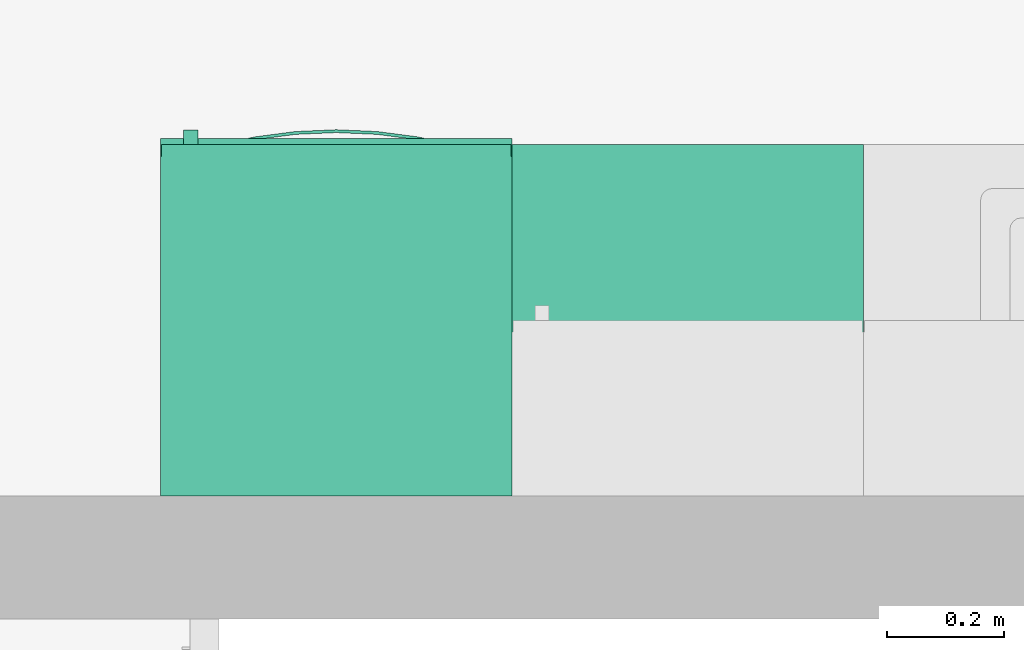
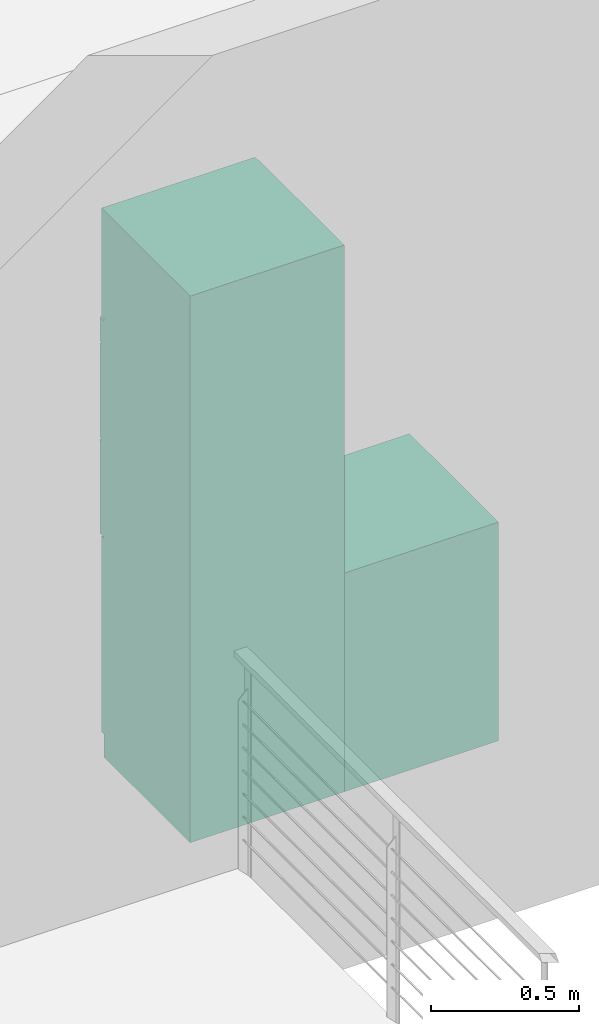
# One storey, part 20 of 26: 2 distribution elements.
"""IFC2X3 building model written with IfcOpenShell, lengths in millimetres."""

from ifc_helpers import new_model, entity, si_unit, converted_unit, money_unit, direction, frame, origin_with_axes, place, context, subcontext, project, spatial, faceted_brep, material, type_object, element, save


model = new_model("IFC2X3")

# Units and contexts
model_context = context("Model", 3, precision=1e-05, world=origin_with_axes(), true_north=direction((0.0, 1.0)))
body_context = subcontext(model_context, "Body", "Model", "MODEL_VIEW")
ifc_project = project(units=[si_unit("LENGTHUNIT", "METRE", prefix="MILLI"), si_unit("AREAUNIT", "SQUARE_METRE"), si_unit("VOLUMEUNIT", "CUBIC_METRE"), converted_unit("PLANEANGLEUNIT", "DEGREE", entity("IfcPlaneAngleMeasure", 0.0174532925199), si_unit("PLANEANGLEUNIT", "RADIAN"), dimensions=[0, 0, 0, 0, 0, 0, 0]), si_unit("SOLIDANGLEUNIT", "STERADIAN"), money_unit("USD"), converted_unit("TIMEUNIT", "Year", entity("IfcTimeMeasure", 31556926.0), si_unit("TIMEUNIT", "SECOND"), dimensions=[0, 0, 0, 0, 0, 0, 0]), si_unit("MASSUNIT", "GRAM"), si_unit("THERMODYNAMICTEMPERATUREUNIT", "DEGREE_CELSIUS"), si_unit("LUMINOUSINTENSITYUNIT", "LUMEN")], contexts=[model_context])

# Site, building, storey
site_placement = place(None, origin_with_axes())
site = spatial("IfcSite", under=ifc_project, at=site_placement, Name="Grove Residential", CompositionType="ELEMENT")
building_placement = place(site_placement, origin_with_axes())
building = spatial("IfcBuilding", under=site, at=building_placement, Name="Building", CompositionType="ELEMENT")
storey_placement = place(building_placement, origin_with_axes())
storey = spatial("IfcBuildingStorey", under=building, at=storey_placement, Name="Ground Floor", CompositionType="ELEMENT", Elevation=0.0)

# Distribution elements
ifc_material = material(Name="Background")
distribution_element_type_1 = type_object("IfcDistributionElementType", Name="Cabinet Tall Single Door with Oven 21")
distribution_element_1_placement = place(storey_placement, frame((4200.0, 7660.00018153, 0.0), z_axis=(0.0, 0.0, 1.0), x_axis=(-1.0, 0.0, 0.0)))
element("IfcDistributionElement", 1, at=distribution_element_1_placement, inside=storey, type_object=distribution_element_type_1, material=ifc_material, Name="FU - 001", context=body_context, shape_type="Brep", body=[
    faceted_brep([(20.0, 20.0, 1790.0), (580.0, 20.0, 1790.0), (580.0, 20.0, 1810.0), (20.0, 20.0, 1810.0), (20.0, 580.0, 1790.0), (580.0, 580.0, 1790.0), (580.0, 580.0, 1810.0), (20.0, 580.0, 1810.0)], [[[0, 1, 2, 3]], [[0, 4, 5, 1]], [[1, 5, 6, 2]], [[3, 2, 6, 7]], [[4, 0, 3, 7]], [[5, 4, 7, 6]]]),
    faceted_brep([(20.0, 20.0, 890.0), (580.0, 20.0, 890.0), (580.0, 20.0, 910.0), (20.0, 20.0, 910.0), (20.0, 580.0, 890.0), (580.0, 580.0, 890.0), (580.0, 580.0, 910.0), (20.0, 580.0, 910.0)], [[[0, 1, 2, 3]], [[0, 4, 5, 1]], [[1, 5, 6, 2]], [[3, 2, 6, 7]], [[4, 0, 3, 7]], [[5, 4, 7, 6]]]),
    faceted_brep([(0.0, 20.0, 0.0), (600.0, 20.0, 0.0), (600.0, 20.0, 90.0), (0.0, 20.0, 90.0), (0.0, 600.0, 0.0), (600.0, 600.0, 0.0), (600.0, 600.0, 90.0), (0.0, 600.0, 90.0)], [[[0, 1, 2, 3]], [[0, 4, 5, 1]], [[1, 5, 6, 2]], [[3, 2, 6, 7]], [[4, 0, 3, 7]], [[5, 4, 7, 6]]]),
    faceted_brep([(0.0, 20.0, 2230.0), (20.0, 20.0, 2230.0), (20.0, 20.0, 2250.0), (0.0, 20.0, 2250.0), (0.0, 600.0, 2230.0), (20.0, 600.0, 2230.0), (580.0, 600.0, 2230.0), (600.0, 600.0, 2230.0), (600.0, 20.0, 2230.0), (580.0, 20.0, 2230.0), (580.0, 20.0, 2250.0), (600.0, 20.0, 2250.0), (600.0, 600.0, 2250.0), (580.0, 600.0, 2250.0), (20.0, 600.0, 2250.0), (0.0, 600.0, 2250.0)], [[[0, 1, 2, 3]], [[0, 4, 5, 6, 7, 8, 9, 1]], [[1, 9, 10, 2]], [[3, 2, 10, 11, 12, 13, 14, 15]], [[4, 0, 3, 15]], [[5, 4, 15, 14]], [[6, 5, 14, 13]], [[7, 6, 13, 12]], [[8, 7, 12, 11]], [[9, 8, 11, 10]]]),
    faceted_brep([(0.0, 20.0, 90.0), (20.0, 20.0, 90.0), (20.0, 20.0, 110.0), (0.0, 20.0, 110.0), (0.0, 600.0, 90.0), (20.0, 600.0, 90.0), (580.0, 600.0, 90.0), (600.0, 600.0, 90.0), (600.0, 20.0, 90.0), (580.0, 20.0, 90.0), (580.0, 20.0, 110.0), (600.0, 20.0, 110.0), (600.0, 600.0, 110.0), (580.0, 600.0, 110.0), (20.0, 600.0, 110.0), (0.0, 600.0, 110.0)], [[[0, 1, 2, 3]], [[0, 4, 5, 6, 7, 8, 9, 1]], [[1, 9, 10, 2]], [[3, 2, 10, 11, 12, 13, 14, 15]], [[4, 0, 3, 15]], [[5, 4, 15, 14]], [[6, 5, 14, 13]], [[7, 6, 13, 12]], [[8, 7, 12, 11]], [[9, 8, 11, 10]]]),
    faceted_brep([(0.0, 20.0, 110.0), (20.0, 20.0, 110.0), (20.0, 20.0, 2230.0), (0.0, 20.0, 2230.0), (0.0, 600.0, 110.0), (600.0, 600.0, 110.0), (600.0, 20.0, 110.0), (580.0, 20.0, 110.0), (580.0, 580.0, 110.0), (20.0, 580.0, 110.0), (20.0, 580.0, 2230.0), (580.0, 580.0, 2230.0), (580.0, 20.0, 2230.0), (600.0, 20.0, 2230.0), (600.0, 600.0, 2230.0), (0.0, 600.0, 2230.0)], [[[0, 1, 2, 3]], [[0, 4, 5, 6, 7, 8, 9, 1]], [[1, 9, 10, 2]], [[3, 2, 10, 11, 12, 13, 14, 15]], [[4, 0, 3, 15]], [[5, 4, 15, 14]], [[6, 5, 14, 13]], [[7, 6, 13, 12]], [[8, 7, 12, 11]], [[9, 8, 11, 10]]]),
    faceted_brep([(580.0, 20.0, 346.666666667), (580.0, 580.0, 346.666666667), (580.0, 580.0, 366.666666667), (580.0, 20.0, 366.666666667), (20.0, 20.0, 346.666666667), (20.0, 580.0, 346.666666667), (20.0, 580.0, 366.666666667), (20.0, 20.0, 366.666666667)], [[[0, 1, 2, 3]], [[0, 4, 5, 1]], [[1, 5, 6, 2]], [[3, 2, 6, 7]], [[4, 0, 3, 7]], [[5, 4, 7, 6]]]),
    faceted_brep([(580.0, 20.0, 623.333333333), (580.0, 580.0, 623.333333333), (580.0, 580.0, 643.333333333), (580.0, 20.0, 643.333333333), (20.0, 20.0, 623.333333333), (20.0, 580.0, 623.333333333), (20.0, 580.0, 643.333333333), (20.0, 20.0, 643.333333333)], [[[0, 1, 2, 3]], [[0, 4, 5, 1]], [[1, 5, 6, 2]], [[3, 2, 6, 7]], [[4, 0, 3, 7]], [[5, 4, 7, 6]]]),
    faceted_brep([(1.5, 20.0, 91.5), (598.5, 20.0, 91.5), (598.5, 0.0, 91.5), (1.5, 0.0, 91.5), (1.5, 20.0, 898.5), (598.5, 20.0, 898.5), (598.5, 0.0, 898.5), (1.5, 0.0, 898.5)], [[[0, 1, 2, 3]], [[0, 4, 5, 1]], [[1, 5, 6, 2]], [[3, 2, 6, 7]], [[4, 0, 3, 7]], [[5, 4, 7, 6]]]),
    faceted_brep([(560.091109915, 0.0, 838.394171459), (558.892304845, 0.0, 835.5), (556.985281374, 0.0, 833.014718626), (554.5, 0.0, 831.107695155), (551.605828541, 0.0, 829.908890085), (548.5, 0.0, 829.5), (545.394171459, 0.0, 829.908890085), (542.5, 0.0, 831.107695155), (540.014718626, 0.0, 833.014718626), (538.107695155, 0.0, 835.5), (536.908890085, 0.0, 838.394171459), (536.5, 0.0, 841.5), (536.908890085, 0.0, 844.605828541), (538.107695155, 0.0, 847.5), (540.014718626, 0.0, 849.985281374), (542.5, 0.0, 851.892304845), (545.394171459, 0.0, 853.091109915), (548.5, 0.0, 853.5), (551.605828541, 0.0, 853.091109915), (554.5, 0.0, 851.892304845), (556.985281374, 0.0, 849.985281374), (558.892304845, 0.0, 847.5), (560.091109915, 0.0, 844.605828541), (560.5, 0.0, 841.5), (560.091109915, -25.0, 838.394171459), (558.892304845, -25.0, 835.5), (556.985281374, -25.0, 833.014718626), (554.5, -25.0, 831.107695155), (551.605828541, -25.0, 829.908890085), (548.5, -25.0, 829.5), (545.394171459, -25.0, 829.908890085), (542.5, -25.0, 831.107695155), (540.014718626, -25.0, 833.014718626), (538.107695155, -25.0, 835.5), (536.908890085, -25.0, 838.394171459), (536.5, -25.0, 841.5), (536.908890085, -25.0, 844.605828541), (538.107695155, -25.0, 847.5), (540.014718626, -25.0, 849.985281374), (542.5, -25.0, 851.892304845), (545.394171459, -25.0, 853.091109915), (548.5, -25.0, 853.5), (551.605828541, -25.0, 853.091109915), (554.5, -25.0, 851.892304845), (556.985281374, -25.0, 849.985281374), (558.892304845, -25.0, 847.5), (560.091109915, -25.0, 844.605828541), (560.5, -25.0, 841.5)], [[[0, 1, 2, 3, 4, 5, 6, 7, 8, 9, 10, 11, 12, 13, 14, 15, 16, 17, 18, 19, 20, 21, 22, 23]], [[1, 0, 24, 25]], [[2, 1, 25, 26]], [[3, 2, 26, 27]], [[4, 3, 27, 28]], [[5, 4, 28, 29]], [[6, 5, 29, 30]], [[7, 6, 30, 31]], [[8, 7, 31, 32]], [[9, 8, 32, 33]], [[10, 9, 33, 34]], [[11, 10, 34, 35]], [[12, 11, 35, 36]], [[13, 12, 36, 37]], [[14, 13, 37, 38]], [[15, 14, 38, 39]], [[16, 15, 39, 40]], [[17, 16, 40, 41]], [[18, 17, 41, 42]], [[19, 18, 42, 43]], [[20, 19, 43, 44]], [[21, 20, 44, 45]], [[22, 21, 45, 46]], [[23, 22, 46, 47]], [[0, 23, 47, 24]], [[24, 47, 46, 45, 44, 43, 42, 41, 40, 39, 38, 37, 36, 35, 34, 33, 32, 31, 30, 29, 28, 27, 26, 25]]]),
    faceted_brep([(1.5, 20.0, 1801.5), (598.5, 20.0, 1801.5), (598.5, 0.0, 1801.5), (1.5, 0.0, 1801.5), (1.5, 20.0, 2248.5), (598.5, 20.0, 2248.5), (598.5, 0.0, 2248.5), (1.5, 0.0, 2248.5)], [[[0, 1, 2, 3]], [[0, 4, 5, 1]], [[1, 5, 6, 2]], [[3, 2, 6, 7]], [[4, 0, 3, 7]], [[5, 4, 7, 6]]]),
    faceted_brep([(560.091109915, 0.0, 1848.39417146), (558.892304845, 0.0, 1845.5), (556.985281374, 0.0, 1843.01471863), (554.5, 0.0, 1841.10769515), (551.605828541, 0.0, 1839.90889008), (548.5, 0.0, 1839.5), (545.394171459, 0.0, 1839.90889008), (542.5, 0.0, 1841.10769515), (540.014718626, 0.0, 1843.01471863), (538.107695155, 0.0, 1845.5), (536.908890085, 0.0, 1848.39417146), (536.5, 0.0, 1851.5), (536.908890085, 0.0, 1854.60582854), (538.107695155, 0.0, 1857.5), (540.014718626, 0.0, 1859.98528137), (542.5, 0.0, 1861.89230485), (545.394171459, 0.0, 1863.09110992), (548.5, 0.0, 1863.5), (551.605828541, 0.0, 1863.09110992), (554.5, 0.0, 1861.89230485), (556.985281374, 0.0, 1859.98528137), (558.892304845, 0.0, 1857.5), (560.091109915, 0.0, 1854.60582854), (560.5, 0.0, 1851.5), (560.091109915, -25.0, 1848.39417146), (558.892304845, -25.0, 1845.5), (556.985281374, -25.0, 1843.01471863), (554.5, -25.0, 1841.10769515), (551.605828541, -25.0, 1839.90889008), (548.5, -25.0, 1839.5), (545.394171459, -25.0, 1839.90889008), (542.5, -25.0, 1841.10769515), (540.014718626, -25.0, 1843.01471863), (538.107695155, -25.0, 1845.5), (536.908890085, -25.0, 1848.39417146), (536.5, -25.0, 1851.5), (536.908890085, -25.0, 1854.60582854), (538.107695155, -25.0, 1857.5), (540.014718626, -25.0, 1859.98528137), (542.5, -25.0, 1861.89230485), (545.394171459, -25.0, 1863.09110992), (548.5, -25.0, 1863.5), (551.605828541, -25.0, 1863.09110992), (554.5, -25.0, 1861.89230485), (556.985281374, -25.0, 1859.98528137), (558.892304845, -25.0, 1857.5), (560.091109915, -25.0, 1854.60582854), (560.5, -25.0, 1851.5)], [[[0, 1, 2, 3, 4, 5, 6, 7, 8, 9, 10, 11, 12, 13, 14, 15, 16, 17, 18, 19, 20, 21, 22, 23]], [[1, 0, 24, 25]], [[2, 1, 25, 26]], [[3, 2, 26, 27]], [[4, 3, 27, 28]], [[5, 4, 28, 29]], [[6, 5, 29, 30]], [[7, 6, 30, 31]], [[8, 7, 31, 32]], [[9, 8, 32, 33]], [[10, 9, 33, 34]], [[11, 10, 34, 35]], [[12, 11, 35, 36]], [[13, 12, 36, 37]], [[14, 13, 37, 38]], [[15, 14, 38, 39]], [[16, 15, 39, 40]], [[17, 16, 40, 41]], [[18, 17, 41, 42]], [[19, 18, 42, 43]], [[20, 19, 43, 44]], [[21, 20, 44, 45]], [[22, 21, 45, 46]], [[23, 22, 46, 47]], [[0, 23, 47, 24]], [[24, 47, 46, 45, 44, 43, 42, 41, 40, 39, 38, 37, 36, 35, 34, 33, 32, 31, 30, 29, 28, 27, 26, 25]]]),
    faceted_brep([(0.0, 20.0, 905.0), (600.0, 20.0, 905.0), (600.0, 0.0, 905.0), (0.0, 0.0, 905.0), (0.0, 20.0, 1795.0), (600.0, 20.0, 1795.0), (110.0, 20.0, 1003.88888889), (490.0, 20.0, 1003.88888889), (490.0, 20.0, 1201.66666667), (110.0, 20.0, 1201.66666667), (110.0, 20.0, 1399.44444444), (490.0, 20.0, 1399.44444444), (490.0, 20.0, 1597.22222222), (110.0, 20.0, 1597.22222222), (600.0, 0.0, 1795.0), (0.0, 0.0, 1795.0), (110.0, 0.0, 1003.88888889), (110.0, 0.0, 1201.66666667), (490.0, 0.0, 1201.66666667), (490.0, 0.0, 1003.88888889), (110.0, 0.0, 1399.44444444), (110.0, 0.0, 1597.22222222), (490.0, 0.0, 1597.22222222), (490.0, 0.0, 1399.44444444)], [[[0, 1, 2, 3]], [[0, 4, 5, 1], [6, 7, 8, 9], [10, 11, 12, 13]], [[1, 5, 14, 2]], [[3, 2, 14, 15], [16, 17, 18, 19], [20, 21, 22, 23]], [[4, 0, 3, 15]], [[5, 4, 15, 14]], [[7, 6, 16, 19]], [[8, 7, 19, 18]], [[9, 8, 18, 17]], [[6, 9, 17, 16]], [[11, 10, 20, 23]], [[12, 11, 23, 22]], [[13, 12, 22, 21]], [[10, 13, 21, 20]]]),
    faceted_brep([(110.0, 15.0, 1003.88888889), (490.0, 15.0, 1003.88888889), (490.0, 5.0, 1003.88888889), (110.0, 5.0, 1003.88888889), (110.0, 15.0, 1201.66666667), (490.0, 15.0, 1201.66666667), (490.0, 5.0, 1201.66666667), (110.0, 5.0, 1201.66666667)], [[[0, 1, 2, 3]], [[0, 4, 5, 1]], [[1, 5, 6, 2]], [[3, 2, 6, 7]], [[4, 0, 3, 7]], [[5, 4, 7, 6]]]),
    faceted_brep([(110.0, 15.0, 1399.44444444), (490.0, 15.0, 1399.44444444), (490.0, 5.0, 1399.44444444), (110.0, 5.0, 1399.44444444), (110.0, 15.0, 1597.22222222), (490.0, 15.0, 1597.22222222), (490.0, 5.0, 1597.22222222), (110.0, 5.0, 1597.22222222)], [[[0, 1, 2, 3]], [[0, 4, 5, 1]], [[1, 5, 6, 2]], [[3, 2, 6, 7]], [[4, 0, 3, 7]], [[5, 4, 7, 6]]]),
    faceted_brep([(0.0, -10.0, 905.0), (100.0, -10.0, 905.0), (100.0, -10.0, 1290.55555556), (0.0, -10.0, 1290.55555556), (0.0, 0.0, 905.0), (100.0, 0.0, 905.0), (100.0, 0.0, 1290.55555556), (0.0, 0.0, 1290.55555556)], [[[0, 1, 2, 3]], [[0, 4, 5, 1]], [[1, 5, 6, 2]], [[3, 2, 6, 7]], [[4, 0, 3, 7]], [[5, 4, 7, 6]]]),
    faceted_brep([(0.0, -10.0, 1300.55555556), (100.0, -10.0, 1300.55555556), (100.0, -10.0, 1686.11111111), (0.0, -10.0, 1686.11111111), (0.0, 0.0, 1300.55555556), (100.0, 0.0, 1300.55555556), (100.0, 0.0, 1686.11111111), (0.0, 0.0, 1686.11111111)], [[[0, 1, 2, 3]], [[0, 4, 5, 1]], [[1, 5, 6, 2]], [[3, 2, 6, 7]], [[4, 0, 3, 7]], [[5, 4, 7, 6]]]),
    faceted_brep([(500.0, -10.0, 905.0), (600.0, -10.0, 905.0), (600.0, -10.0, 1290.55555556), (500.0, -10.0, 1290.55555556), (500.0, 0.0, 905.0), (600.0, 0.0, 905.0), (600.0, 0.0, 1290.55555556), (500.0, 0.0, 1290.55555556)], [[[0, 1, 2, 3]], [[0, 4, 5, 1]], [[1, 5, 6, 2]], [[3, 2, 6, 7]], [[4, 0, 3, 7]], [[5, 4, 7, 6]]]),
    faceted_brep([(500.0, -10.0, 1300.55555556), (600.0, -10.0, 1300.55555556), (600.0, -10.0, 1686.11111111), (500.0, -10.0, 1686.11111111), (500.0, 0.0, 1300.55555556), (600.0, 0.0, 1300.55555556), (600.0, 0.0, 1686.11111111), (500.0, 0.0, 1686.11111111)], [[[0, 1, 2, 3]], [[0, 4, 5, 1]], [[1, 5, 6, 2]], [[3, 2, 6, 7]], [[4, 0, 3, 7]], [[5, 4, 7, 6]]]),
    faceted_brep([(0.0, 0.0, 1696.11111111), (100.0, 0.0, 1696.11111111), (100.0, -10.0, 1696.11111111), (0.0, -10.0, 1696.11111111), (0.0, 0.0, 1795.0), (600.0, 0.0, 1795.0), (600.0, 0.0, 1696.11111111), (500.0, 0.0, 1696.11111111), (500.0, 0.0, 1775.22222222), (100.0, 0.0, 1775.22222222), (100.0, -10.0, 1775.22222222), (500.0, -10.0, 1775.22222222), (500.0, -10.0, 1696.11111111), (600.0, -10.0, 1696.11111111), (600.0, -10.0, 1795.0), (0.0, -10.0, 1795.0)], [[[0, 1, 2, 3]], [[0, 4, 5, 6, 7, 8, 9, 1]], [[1, 9, 10, 2]], [[3, 2, 10, 11, 12, 13, 14, 15]], [[4, 0, 3, 15]], [[5, 4, 15, 14]], [[6, 5, 14, 13]], [[7, 6, 13, 12]], [[8, 7, 12, 11]], [[9, 8, 11, 10]]]),
    faceted_brep([(101.316675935, 0.0, 1234.62962963), (161.081457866, -13.2495331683, 1234.62962963), (161.081457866, -13.2495331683, 1267.59259259), (101.316675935, 0.0, 1267.59259259), (498.683324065, 0.0, 1234.62962963), (438.918542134, -13.2495331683, 1234.62962963), (369.724594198, -22.3590892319, 1234.62962963), (300.0, -25.4033307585, 1234.62962963), (230.275405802, -22.3590892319, 1234.62962963), (124.395820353, 0.0, 1234.62962963), (161.949698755, -8.32549440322, 1234.62962963), (230.711184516, -17.3781157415, 1234.62962963), (300.0, -20.4033307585, 1234.62962963), (369.288815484, -17.3781157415, 1234.62962963), (438.050301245, -8.32549440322, 1234.62962963), (475.604179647, 0.0, 1234.62962963), (230.275405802, -22.3590892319, 1267.59259259), (300.0, -25.4033307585, 1267.59259259), (369.724594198, -22.3590892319, 1267.59259259), (438.918542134, -13.2495331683, 1267.59259259), (498.683324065, 0.0, 1267.59259259), (475.604179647, 0.0, 1267.59259259), (438.050301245, -8.32549440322, 1267.59259259), (369.288815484, -17.3781157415, 1267.59259259), (300.0, -20.4033307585, 1267.59259259), (230.711184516, -17.3781157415, 1267.59259259), (161.949698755, -8.32549440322, 1267.59259259), (124.395820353, 0.0, 1267.59259259)], [[[0, 1, 2, 3]], [[4, 5, 6, 7, 8, 1, 0, 9, 10, 11, 12, 13, 14, 15]], [[1, 8, 16, 2]], [[3, 2, 16, 17, 18, 19, 20, 21, 22, 23, 24, 25, 26, 27]], [[0, 3, 27, 9]], [[5, 4, 20, 19]], [[6, 5, 19, 18]], [[7, 6, 18, 17]], [[8, 7, 17, 16]], [[10, 9, 27, 26]], [[11, 10, 26, 25]], [[12, 11, 25, 24]], [[13, 12, 24, 23]], [[14, 13, 23, 22]], [[15, 14, 22, 21]], [[4, 15, 21, 20]]]),
    faceted_brep([(101.316675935, 0.0, 1630.18518519), (161.081457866, -13.2495331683, 1630.18518519), (161.081457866, -13.2495331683, 1663.14814815), (101.316675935, 0.0, 1663.14814815), (498.683324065, 0.0, 1630.18518519), (438.918542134, -13.2495331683, 1630.18518519), (369.724594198, -22.3590892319, 1630.18518519), (300.0, -25.4033307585, 1630.18518519), (230.275405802, -22.3590892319, 1630.18518519), (124.395820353, 0.0, 1630.18518519), (161.949698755, -8.32549440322, 1630.18518519), (230.711184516, -17.3781157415, 1630.18518519), (300.0, -20.4033307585, 1630.18518519), (369.288815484, -17.3781157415, 1630.18518519), (438.050301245, -8.32549440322, 1630.18518519), (475.604179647, 0.0, 1630.18518519), (230.275405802, -22.3590892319, 1663.14814815), (300.0, -25.4033307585, 1663.14814815), (369.724594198, -22.3590892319, 1663.14814815), (438.918542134, -13.2495331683, 1663.14814815), (498.683324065, 0.0, 1663.14814815), (475.604179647, 0.0, 1663.14814815), (438.050301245, -8.32549440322, 1663.14814815), (369.288815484, -17.3781157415, 1663.14814815), (300.0, -20.4033307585, 1663.14814815), (230.711184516, -17.3781157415, 1663.14814815), (161.949698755, -8.32549440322, 1663.14814815), (124.395820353, 0.0, 1663.14814815)], [[[0, 1, 2, 3]], [[4, 5, 6, 7, 8, 1, 0, 9, 10, 11, 12, 13, 14, 15]], [[1, 8, 16, 2]], [[3, 2, 16, 17, 18, 19, 20, 21, 22, 23, 24, 25, 26, 27]], [[0, 3, 27, 9]], [[5, 4, 20, 19]], [[6, 5, 19, 18]], [[7, 6, 18, 17]], [[8, 7, 17, 16]], [[10, 9, 27, 26]], [[11, 10, 26, 25]], [[12, 11, 25, 24]], [[13, 12, 24, 23]], [[14, 13, 23, 22]], [[15, 14, 22, 21]], [[4, 15, 21, 20]]]),
])
distribution_element_type_2 = type_object("IfcDistributionElementType", Name="Cabinet Base MultiDrawer 21")
distribution_element_2_placement = place(storey_placement, frame((4800.0, 7660.00018153, 0.0), z_axis=(0.0, 0.0, 1.0), x_axis=(-1.0, 0.0, 0.0)))
element("IfcDistributionElement", 2, at=distribution_element_2_placement, inside=storey, type_object=distribution_element_type_2, material=ifc_material, Name="FU - 001", context=body_context, shape_type="Brep", body=[
    faceted_brep([(1.5, 70.0, 91.5), (598.5, 70.0, 91.5), (598.5, 50.0, 91.5), (1.5, 50.0, 91.5), (1.5, 70.0, 278.5), (598.5, 70.0, 278.5), (598.5, 50.0, 278.5), (1.5, 50.0, 278.5)], [[[0, 1, 2, 3]], [[0, 4, 5, 1]], [[1, 5, 6, 2]], [[3, 2, 6, 7]], [[4, 0, 3, 7]], [[5, 4, 7, 6]]]),
    faceted_brep([(295.407798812, 50.0, 203.91344561), (291.514718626, 50.0, 206.514718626), (288.91344561, 50.0, 210.407798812), (288.0, 50.0, 215.0), (288.91344561, 50.0, 219.592201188), (291.514718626, 50.0, 223.485281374), (295.407798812, 50.0, 226.08655439), (300.0, 50.0, 227.0), (304.592201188, 50.0, 226.08655439), (308.485281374, 50.0, 223.485281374), (311.08655439, 50.0, 219.592201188), (312.0, 50.0, 215.0), (311.08655439, 50.0, 210.407798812), (308.485281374, 50.0, 206.514718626), (304.592201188, 50.0, 203.91344561), (300.0, 50.0, 203.0), (295.407798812, 25.0, 203.91344561), (291.514718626, 25.0, 206.514718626), (288.91344561, 25.0, 210.407798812), (288.0, 25.0, 215.0), (288.91344561, 25.0, 219.592201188), (291.514718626, 25.0, 223.485281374), (295.407798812, 25.0, 226.08655439), (300.0, 25.0, 227.0), (304.592201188, 25.0, 226.08655439), (308.485281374, 25.0, 223.485281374), (311.08655439, 25.0, 219.592201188), (312.0, 25.0, 215.0), (311.08655439, 25.0, 210.407798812), (308.485281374, 25.0, 206.514718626), (304.592201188, 25.0, 203.91344561), (300.0, 25.0, 203.0)], [[[0, 1, 2, 3, 4, 5, 6, 7, 8, 9, 10, 11, 12, 13, 14, 15]], [[1, 0, 16, 17]], [[2, 1, 17, 18]], [[3, 2, 18, 19]], [[4, 3, 19, 20]], [[5, 4, 20, 21]], [[6, 5, 21, 22]], [[7, 6, 22, 23]], [[8, 7, 23, 24]], [[9, 8, 24, 25]], [[10, 9, 25, 26]], [[11, 10, 26, 27]], [[12, 11, 27, 28]], [[13, 12, 28, 29]], [[14, 13, 29, 30]], [[15, 14, 30, 31]], [[0, 15, 31, 16]], [[16, 31, 30, 29, 28, 27, 26, 25, 24, 23, 22, 21, 20, 19, 18, 17]]]),
    faceted_brep([(1.5, 70.0, 281.5), (598.5, 70.0, 281.5), (598.5, 50.0, 281.5), (1.5, 50.0, 281.5), (1.5, 70.0, 468.5), (598.5, 70.0, 468.5), (598.5, 50.0, 468.5), (1.5, 50.0, 468.5)], [[[0, 1, 2, 3]], [[0, 4, 5, 1]], [[1, 5, 6, 2]], [[3, 2, 6, 7]], [[4, 0, 3, 7]], [[5, 4, 7, 6]]]),
    faceted_brep([(295.407798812, 50.0, 393.91344561), (291.514718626, 50.0, 396.514718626), (288.91344561, 50.0, 400.407798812), (288.0, 50.0, 405.0), (288.91344561, 50.0, 409.592201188), (291.514718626, 50.0, 413.485281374), (295.407798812, 50.0, 416.08655439), (300.0, 50.0, 417.0), (304.592201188, 50.0, 416.08655439), (308.485281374, 50.0, 413.485281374), (311.08655439, 50.0, 409.592201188), (312.0, 50.0, 405.0), (311.08655439, 50.0, 400.407798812), (308.485281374, 50.0, 396.514718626), (304.592201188, 50.0, 393.91344561), (300.0, 50.0, 393.0), (295.407798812, 25.0, 393.91344561), (291.514718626, 25.0, 396.514718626), (288.91344561, 25.0, 400.407798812), (288.0, 25.0, 405.0), (288.91344561, 25.0, 409.592201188), (291.514718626, 25.0, 413.485281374), (295.407798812, 25.0, 416.08655439), (300.0, 25.0, 417.0), (304.592201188, 25.0, 416.08655439), (308.485281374, 25.0, 413.485281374), (311.08655439, 25.0, 409.592201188), (312.0, 25.0, 405.0), (311.08655439, 25.0, 400.407798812), (308.485281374, 25.0, 396.514718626), (304.592201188, 25.0, 393.91344561), (300.0, 25.0, 393.0)], [[[0, 1, 2, 3, 4, 5, 6, 7, 8, 9, 10, 11, 12, 13, 14, 15]], [[1, 0, 16, 17]], [[2, 1, 17, 18]], [[3, 2, 18, 19]], [[4, 3, 19, 20]], [[5, 4, 20, 21]], [[6, 5, 21, 22]], [[7, 6, 22, 23]], [[8, 7, 23, 24]], [[9, 8, 24, 25]], [[10, 9, 25, 26]], [[11, 10, 26, 27]], [[12, 11, 27, 28]], [[13, 12, 28, 29]], [[14, 13, 29, 30]], [[15, 14, 30, 31]], [[0, 15, 31, 16]], [[16, 31, 30, 29, 28, 27, 26, 25, 24, 23, 22, 21, 20, 19, 18, 17]]]),
    faceted_brep([(20.0, 70.0, 280.0), (580.0, 70.0, 280.0), (580.0, 70.0, 300.0), (20.0, 70.0, 300.0), (20.0, 580.0, 280.0), (580.0, 580.0, 280.0), (580.0, 580.0, 300.0), (20.0, 580.0, 300.0)], [[[0, 1, 2, 3]], [[0, 4, 5, 1]], [[1, 5, 6, 2]], [[3, 2, 6, 7]], [[4, 0, 3, 7]], [[5, 4, 7, 6]]]),
    faceted_brep([(1.5, 70.0, 471.5), (598.5, 70.0, 471.5), (598.5, 50.0, 471.5), (1.5, 50.0, 471.5), (1.5, 70.0, 658.5), (598.5, 70.0, 658.5), (598.5, 50.0, 658.5), (1.5, 50.0, 658.5)], [[[0, 1, 2, 3]], [[0, 4, 5, 1]], [[1, 5, 6, 2]], [[3, 2, 6, 7]], [[4, 0, 3, 7]], [[5, 4, 7, 6]]]),
    faceted_brep([(295.407798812, 50.0, 583.91344561), (291.514718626, 50.0, 586.514718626), (288.91344561, 50.0, 590.407798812), (288.0, 50.0, 595.0), (288.91344561, 50.0, 599.592201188), (291.514718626, 50.0, 603.485281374), (295.407798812, 50.0, 606.08655439), (300.0, 50.0, 607.0), (304.592201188, 50.0, 606.08655439), (308.485281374, 50.0, 603.485281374), (311.08655439, 50.0, 599.592201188), (312.0, 50.0, 595.0), (311.08655439, 50.0, 590.407798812), (308.485281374, 50.0, 586.514718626), (304.592201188, 50.0, 583.91344561), (300.0, 50.0, 583.0), (295.407798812, 25.0, 583.91344561), (291.514718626, 25.0, 586.514718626), (288.91344561, 25.0, 590.407798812), (288.0, 25.0, 595.0), (288.91344561, 25.0, 599.592201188), (291.514718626, 25.0, 603.485281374), (295.407798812, 25.0, 606.08655439), (300.0, 25.0, 607.0), (304.592201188, 25.0, 606.08655439), (308.485281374, 25.0, 603.485281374), (311.08655439, 25.0, 599.592201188), (312.0, 25.0, 595.0), (311.08655439, 25.0, 590.407798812), (308.485281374, 25.0, 586.514718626), (304.592201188, 25.0, 583.91344561), (300.0, 25.0, 583.0)], [[[0, 1, 2, 3, 4, 5, 6, 7, 8, 9, 10, 11, 12, 13, 14, 15]], [[1, 0, 16, 17]], [[2, 1, 17, 18]], [[3, 2, 18, 19]], [[4, 3, 19, 20]], [[5, 4, 20, 21]], [[6, 5, 21, 22]], [[7, 6, 22, 23]], [[8, 7, 23, 24]], [[9, 8, 24, 25]], [[10, 9, 25, 26]], [[11, 10, 26, 27]], [[12, 11, 27, 28]], [[13, 12, 28, 29]], [[14, 13, 29, 30]], [[15, 14, 30, 31]], [[0, 15, 31, 16]], [[16, 31, 30, 29, 28, 27, 26, 25, 24, 23, 22, 21, 20, 19, 18, 17]]]),
    faceted_brep([(20.0, 70.0, 470.0), (580.0, 70.0, 470.0), (580.0, 70.0, 490.0), (20.0, 70.0, 490.0), (20.0, 580.0, 470.0), (580.0, 580.0, 470.0), (580.0, 580.0, 490.0), (20.0, 580.0, 490.0)], [[[0, 1, 2, 3]], [[0, 4, 5, 1]], [[1, 5, 6, 2]], [[3, 2, 6, 7]], [[4, 0, 3, 7]], [[5, 4, 7, 6]]]),
    faceted_brep([(1.5, 70.0, 661.5), (598.5, 70.0, 661.5), (598.5, 50.0, 661.5), (1.5, 50.0, 661.5), (1.5, 70.0, 848.5), (598.5, 70.0, 848.5), (598.5, 50.0, 848.5), (1.5, 50.0, 848.5)], [[[0, 1, 2, 3]], [[0, 4, 5, 1]], [[1, 5, 6, 2]], [[3, 2, 6, 7]], [[4, 0, 3, 7]], [[5, 4, 7, 6]]]),
    faceted_brep([(295.407798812, 50.0, 773.91344561), (291.514718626, 50.0, 776.514718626), (288.91344561, 50.0, 780.407798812), (288.0, 50.0, 785.0), (288.91344561, 50.0, 789.592201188), (291.514718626, 50.0, 793.485281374), (295.407798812, 50.0, 796.08655439), (300.0, 50.0, 797.0), (304.592201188, 50.0, 796.08655439), (308.485281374, 50.0, 793.485281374), (311.08655439, 50.0, 789.592201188), (312.0, 50.0, 785.0), (311.08655439, 50.0, 780.407798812), (308.485281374, 50.0, 776.514718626), (304.592201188, 50.0, 773.91344561), (300.0, 50.0, 773.0), (295.407798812, 25.0, 773.91344561), (291.514718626, 25.0, 776.514718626), (288.91344561, 25.0, 780.407798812), (288.0, 25.0, 785.0), (288.91344561, 25.0, 789.592201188), (291.514718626, 25.0, 793.485281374), (295.407798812, 25.0, 796.08655439), (300.0, 25.0, 797.0), (304.592201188, 25.0, 796.08655439), (308.485281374, 25.0, 793.485281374), (311.08655439, 25.0, 789.592201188), (312.0, 25.0, 785.0), (311.08655439, 25.0, 780.407798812), (308.485281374, 25.0, 776.514718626), (304.592201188, 25.0, 773.91344561), (300.0, 25.0, 773.0)], [[[0, 1, 2, 3, 4, 5, 6, 7, 8, 9, 10, 11, 12, 13, 14, 15]], [[1, 0, 16, 17]], [[2, 1, 17, 18]], [[3, 2, 18, 19]], [[4, 3, 19, 20]], [[5, 4, 20, 21]], [[6, 5, 21, 22]], [[7, 6, 22, 23]], [[8, 7, 23, 24]], [[9, 8, 24, 25]], [[10, 9, 25, 26]], [[11, 10, 26, 27]], [[12, 11, 27, 28]], [[13, 12, 28, 29]], [[14, 13, 29, 30]], [[15, 14, 30, 31]], [[0, 15, 31, 16]], [[16, 31, 30, 29, 28, 27, 26, 25, 24, 23, 22, 21, 20, 19, 18, 17]]]),
    faceted_brep([(20.0, 70.0, 660.0), (580.0, 70.0, 660.0), (580.0, 70.0, 680.0), (20.0, 70.0, 680.0), (20.0, 580.0, 660.0), (580.0, 580.0, 660.0), (580.0, 580.0, 680.0), (20.0, 580.0, 680.0)], [[[0, 1, 2, 3]], [[0, 4, 5, 1]], [[1, 5, 6, 2]], [[3, 2, 6, 7]], [[4, 0, 3, 7]], [[5, 4, 7, 6]]]),
    faceted_brep([(0.0, 70.0, 0.0), (600.0, 70.0, 0.0), (600.0, 70.0, 90.0), (0.0, 70.0, 90.0), (0.0, 600.0, 0.0), (600.0, 600.0, 0.0), (600.0, 600.0, 90.0), (0.0, 600.0, 90.0)], [[[0, 1, 2, 3]], [[0, 4, 5, 1]], [[1, 5, 6, 2]], [[3, 2, 6, 7]], [[4, 0, 3, 7]], [[5, 4, 7, 6]]]),
    faceted_brep([(0.0, 70.0, 830.0), (20.0, 70.0, 830.0), (20.0, 70.0, 850.0), (0.0, 70.0, 850.0), (0.0, 600.0, 830.0), (20.0, 600.0, 830.0), (580.0, 600.0, 830.0), (600.0, 600.0, 830.0), (600.0, 70.0, 830.0), (580.0, 70.0, 830.0), (580.0, 70.0, 850.0), (600.0, 70.0, 850.0), (600.0, 600.0, 850.0), (580.0, 600.0, 850.0), (20.0, 600.0, 850.0), (0.0, 600.0, 850.0)], [[[0, 1, 2, 3]], [[0, 4, 5, 6, 7, 8, 9, 1]], [[1, 9, 10, 2]], [[3, 2, 10, 11, 12, 13, 14, 15]], [[4, 0, 3, 15]], [[5, 4, 15, 14]], [[6, 5, 14, 13]], [[7, 6, 13, 12]], [[8, 7, 12, 11]], [[9, 8, 11, 10]]]),
    faceted_brep([(0.0, 70.0, 90.0), (20.0, 70.0, 90.0), (20.0, 70.0, 110.0), (0.0, 70.0, 110.0), (0.0, 600.0, 90.0), (20.0, 600.0, 90.0), (580.0, 600.0, 90.0), (600.0, 600.0, 90.0), (600.0, 70.0, 90.0), (580.0, 70.0, 90.0), (580.0, 70.0, 110.0), (600.0, 70.0, 110.0), (600.0, 600.0, 110.0), (580.0, 600.0, 110.0), (20.0, 600.0, 110.0), (0.0, 600.0, 110.0)], [[[0, 1, 2, 3]], [[0, 4, 5, 6, 7, 8, 9, 1]], [[1, 9, 10, 2]], [[3, 2, 10, 11, 12, 13, 14, 15]], [[4, 0, 3, 15]], [[5, 4, 15, 14]], [[6, 5, 14, 13]], [[7, 6, 13, 12]], [[8, 7, 12, 11]], [[9, 8, 11, 10]]]),
    faceted_brep([(0.0, 70.0, 110.0), (20.0, 70.0, 110.0), (20.0, 70.0, 830.0), (0.0, 70.0, 830.0), (0.0, 600.0, 110.0), (600.0, 600.0, 110.0), (600.0, 70.0, 110.0), (580.0, 70.0, 110.0), (580.0, 580.0, 110.0), (20.0, 580.0, 110.0), (20.0, 580.0, 830.0), (580.0, 580.0, 830.0), (580.0, 70.0, 830.0), (600.0, 70.0, 830.0), (600.0, 600.0, 830.0), (0.0, 600.0, 830.0)], [[[0, 1, 2, 3]], [[0, 4, 5, 6, 7, 8, 9, 1]], [[1, 9, 10, 2]], [[3, 2, 10, 11, 12, 13, 14, 15]], [[4, 0, 3, 15]], [[5, 4, 15, 14]], [[6, 5, 14, 13]], [[7, 6, 13, 12]], [[8, 7, 12, 11]], [[9, 8, 11, 10]]]),
    faceted_brep([(0.0, 0.0, 850.0), (600.0, 0.0, 850.0), (600.0, 0.0, 900.0), (0.0, 0.0, 900.0), (0.0, 600.0, 850.0), (600.0, 600.0, 850.0), (600.0, 600.0, 900.0), (0.0, 600.0, 900.0)], [[[0, 1, 2, 3]], [[0, 4, 5, 1]], [[1, 5, 6, 2]], [[3, 2, 6, 7]], [[4, 0, 3, 7]], [[5, 4, 7, 6]]]),
])

save(model, "model.ifc")
